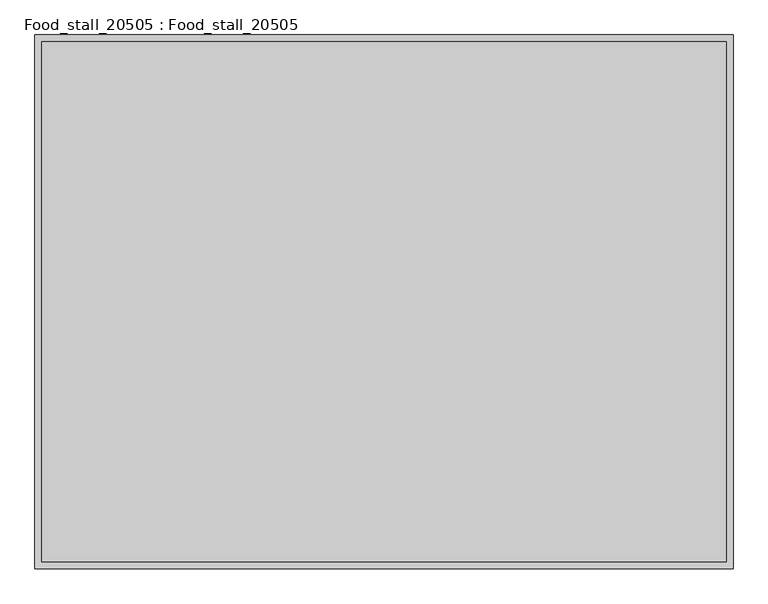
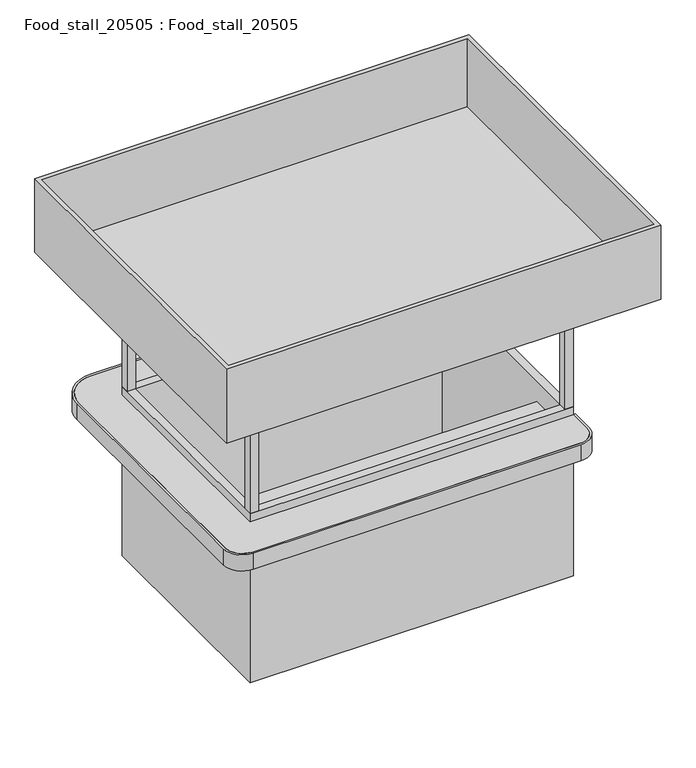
"""IFC4 building model written with IfcOpenShell, lengths in millimetres: proxy geometry, Food_stall_20505 : Food_stall_20505."""

import ifcopenshell
import ifcopenshell.guid

model = None  # the IFC model being written
_history = None  # IfcOwnerHistory: only IFC2X3 demands one
_inside = {}  # id of a spatial element -> (the spatial element, [elements in it])
_under = {}  # id of a project, library or spatial element -> (it, [spatial elements below it])
_declared = {}  # id of a project -> (the project, [libraries it declares])
_typed = {}  # id of a type object -> (the type object, [elements of that type])
_made_of = {}  # id of a material, layer set ... -> (it, [elements and type objects made of it])


def new_model(schema):
    """Start an empty IFC model of exactly this schema.

    Asked for "IFC4X3", IfcOpenShell would pick the latest addendum, in which some entities
    have other attributes; the version numbers below select the first issue.
    IFC2X3 requires an IfcOwnerHistory on every rooted entity: one is made here for all.
    """
    global model, _history
    if schema == "IFC4X3":
        model = ifcopenshell.file(schema_version=(4, 3, 0, 0))
    else:
        model = ifcopenshell.file(schema=schema)
    _inside.clear()
    _under.clear()
    _declared.clear()
    _typed.clear()
    _made_of.clear()
    _history = None
    if model.schema == "IFC2X3":
        org = make("IfcOrganization", Name="unknown")
        user = make(
            "IfcPersonAndOrganization",
            ThePerson=make("IfcPerson", FamilyName="unknown"),
            TheOrganization=org,
        )
        app = make(
            "IfcApplication",
            ApplicationDeveloper=org,
            Version="unknown",
            ApplicationFullName="unknown",
            ApplicationIdentifier="unknown",
        )
        _history = make(
            "IfcOwnerHistory",
            OwningUser=user,
            OwningApplication=app,
            ChangeAction="ADDED",
            CreationDate=0,
        )
    return model


def make(cls, **values):
    """One entity of the class cls with the attributes given. An attribute that is None is left unset."""
    return model.create_entity(
        cls, **{name: value for name, value in values.items() if value is not None}
    )


def rooted(cls, **values):
    """An entity with a GlobalId (a new one), such as an element, a storey or a relation."""
    return make(cls, GlobalId=ifcopenshell.guid.new(), OwnerHistory=_history, **values)


def si_unit(unit_type, name, prefix=None):
    """IfcSIUnit, for example si_unit("LENGTHUNIT", "METRE", prefix="MILLI")."""
    return make("IfcSIUnit", UnitType=unit_type, Prefix=prefix, Name=name)


def assignment(units):
    """IfcUnitAssignment: the units of a project."""
    return None if units is None else make("IfcUnitAssignment", Units=units)


def point(xyz):
    """IfcCartesianPoint."""
    return None if xyz is None else make("IfcCartesianPoint", Coordinates=xyz)


def direction(xyz):
    """IfcDirection."""
    return None if xyz is None else make("IfcDirection", DirectionRatios=xyz)


def frame(location, z_axis=None, x_axis=None):
    """IfcAxis2Placement3D, a coordinate frame: its origin and axes. An axis left out is left unset."""
    return make(
        "IfcAxis2Placement3D",
        Location=point(location),
        Axis=direction(z_axis),
        RefDirection=direction(x_axis),
    )


def frame_2d(location, x_axis=None):
    """IfcAxis2Placement2D, a coordinate frame in the plane: its origin and x axis."""
    return make(
        "IfcAxis2Placement2D", Location=point(location), RefDirection=direction(x_axis)
    )


def origin():
    """The frame at (0, 0, 0) with its axes left unset."""
    return frame((0.0, 0.0, 0.0))


def origin_with_axes():
    """The frame at (0, 0, 0) with the z axis (0, 0, 1) and the x axis (1, 0, 0) written out."""
    return frame((0.0, 0.0, 0.0), z_axis=(0.0, 0.0, 1.0), x_axis=(1.0, 0.0, 0.0))


def place(relative_to, where):
    """IfcLocalPlacement: puts the frame where relative to a parent placement (None: the world)."""
    return make(
        "IfcLocalPlacement", PlacementRelTo=relative_to, RelativePlacement=where
    )


def context(
    kind, dimensions, precision=None, world=None, true_north=None, identifier=None
):
    """IfcGeometricRepresentationContext, for example the 3D "Model" context."""
    return make(
        "IfcGeometricRepresentationContext",
        ContextIdentifier=identifier,
        ContextType=kind,
        CoordinateSpaceDimension=dimensions,
        Precision=precision,
        WorldCoordinateSystem=world,
        TrueNorth=true_north,
    )


def project(units=None, contexts=None):
    """IfcProject with its units and contexts."""
    return rooted(
        "IfcProject",
        Name="project",
        RepresentationContexts=contexts,
        UnitsInContext=assignment(units),
    )


def spatial(cls, under=None, at=None, **own):
    """A site, building, storey or space (cls), placed at a placement, below another one or the project."""
    s = rooted(cls, ObjectPlacement=at, **own)
    if under is not None:
        _under.setdefault(under.id(), (under, []))[1].append(s)
    return s


def polyline(points):
    """IfcPolyline through the points."""
    return make("IfcPolyline", Points=[point(p) for p in points])


def circle_curve(where, radius):
    """IfcCircle in the frame where."""
    return make("IfcCircle", Position=where, Radius=radius)


def trimmed(basis, trim1, trim2, sense, master):
    """IfcTrimmedCurve: the piece of a basis curve between two trims."""
    return make(
        "IfcTrimmedCurve",
        BasisCurve=basis,
        Trim1=trim1,
        Trim2=trim2,
        SenseAgreement=sense,
        MasterRepresentation=master,
    )


def segment(curve, same_sense, transition):
    """IfcCompositeCurveSegment."""
    return make(
        "IfcCompositeCurveSegment",
        Transition=transition,
        SameSense=same_sense,
        ParentCurve=curve,
    )


def composite_curve(segments, self_intersect=None):
    """IfcCompositeCurve: segments joined end to end."""
    return make("IfcCompositeCurve", Segments=segments, SelfIntersect=self_intersect)


def outline(outer, holes=None, kind="AREA"):
    """IfcArbitraryClosedProfileDef: a profile drawn as a closed curve; with holes, ...WithVoids."""
    if holes is None:
        return make("IfcArbitraryClosedProfileDef", ProfileType=kind, OuterCurve=outer)
    return make(
        "IfcArbitraryProfileDefWithVoids",
        ProfileType=kind,
        OuterCurve=outer,
        InnerCurves=holes,
    )


def extrude(swept, where, along, depth):
    """IfcExtrudedAreaSolid: the profile swept, set in the frame where, extruded along a direction by depth."""
    return make(
        "IfcExtrudedAreaSolid",
        SweptArea=swept,
        Position=where,
        ExtrudedDirection=direction(along),
        Depth=depth,
    )


def shape(context_of_items, identifier, shape_type, items):
    """IfcShapeRepresentation: the items that make up one representation, for example the "Body"."""
    return make(
        "IfcShapeRepresentation",
        ContextOfItems=context_of_items,
        RepresentationIdentifier=identifier,
        RepresentationType=shape_type,
        Items=items,
    )


def source(mapping_origin, context_of_items, identifier, shape_type, items):
    """IfcRepresentationMap: a shape defined once, which mapped items show again and again."""
    return make(
        "IfcRepresentationMap",
        MappingOrigin=mapping_origin,
        MappedRepresentation=shape(context_of_items, identifier, shape_type, items),
    )


def transform(
    local_origin,
    x_axis=None,
    y_axis=None,
    z_axis=None,
    scale=None,
    scale2=None,
    scale3=None,
    uniform=True,
):
    """IfcCartesianTransformationOperator3D, or its non-uniform kind. x_axis, y_axis, z_axis: its Axis1, 2, 3."""
    if uniform:
        return make(
            "IfcCartesianTransformationOperator3D",
            Axis1=direction(x_axis),
            Axis2=direction(y_axis),
            LocalOrigin=point(local_origin),
            Scale=scale,
            Axis3=direction(z_axis),
        )
    return make(
        "IfcCartesianTransformationOperator3DnonUniform",
        Axis1=direction(x_axis),
        Axis2=direction(y_axis),
        LocalOrigin=point(local_origin),
        Scale=scale,
        Axis3=direction(z_axis),
        Scale2=scale2,
        Scale3=scale3,
    )


def mapped(mapping_source, mapping_target):
    """IfcMappedItem: shows the shape of a source again, moved by a transform."""
    return make(
        "IfcMappedItem", MappingSource=mapping_source, MappingTarget=mapping_target
    )


def made_of(thing, what):
    """Note that an element or type object is made of a material, layer set ...; save() writes the relation."""
    if what is not None:
        _made_of.setdefault(what.id(), (what, []))[1].append(thing)
    return thing


def element(
    cls,
    number,
    at=None,
    inside=None,
    cuts=None,
    type_object=None,
    material=None,
    context=None,
    identifier="Body",
    shape_type=None,
    held_by="IfcProductDefinitionShape",
    body=None,
    shapes=None,
    **own,
):
    """One element of the class cls, such as IfcWall. Its Tag is "e" and its number.

    at: its placement. inside: the storey or other place that contains it. cuts: it is an
    opening in that element (IfcRelVoidsElement). A single representation is given by context,
    identifier, shape_type and body (its items); several are given by shapes. held_by: the class
    of the entity that holds the representations. save() writes the other relations.
    """
    e = rooted(cls, Tag="e%d" % number, ObjectPlacement=at, **own)
    if body is not None:
        shapes = [shape(context, identifier, shape_type, body)]
    if shapes is not None:
        e.Representation = make(held_by, Representations=shapes)
    if inside is not None:
        _inside.setdefault(inside.id(), (inside, []))[1].append(e)
    if cuts is not None:
        rooted(
            "IfcRelVoidsElement", RelatingBuildingElement=cuts, RelatedOpeningElement=e
        )
    if type_object is not None:
        _typed.setdefault(type_object.id(), (type_object, []))[1].append(e)
    return made_of(e, material)


def aggregate(whole, parts):
    """IfcRelAggregates: a whole, such as a stair, and the parts it consists of."""
    return rooted("IfcRelAggregates", RelatingObject=whole, RelatedObjects=parts)


def save(model, path):
    """Write the relations noted so far, then the file.

    IfcRelAggregates (storeys below a building ...), IfcRelContainedInSpatialStructure (elements
    in a storey), IfcRelDefinesByType, IfcRelAssociatesMaterial and IfcRelDeclares: one each for
    every whole, place, type object, material and project.
    """
    for whole, parts in _under.values():
        aggregate(whole, parts)
    for where, things in _inside.values():
        rooted(
            "IfcRelContainedInSpatialStructure",
            RelatedElements=things,
            RelatingStructure=where,
        )
    for kind, things in _typed.values():
        rooted("IfcRelDefinesByType", RelatedObjects=things, RelatingType=kind)
    for what, things in _made_of.values():
        rooted("IfcRelAssociatesMaterial", RelatedObjects=things, RelatingMaterial=what)
    for by, libraries in _declared.values():
        rooted("IfcRelDeclares", RelatingContext=by, RelatedDefinitions=libraries)
    model.write(path)


def food_stall_20505_food_stall_20505_67107a66(model_context):
    return source(origin(), model_context, "Body", "SweptSolid", [
        extrude(outline(polyline([(965.2, 660.4), (965.2, -660.4), (-965.2, -660.4), (-965.2, 660.4), (965.2, 660.4)]), holes=[polyline([(914.4, 609.6), (-914.4, 609.6), (-914.4, -609.6), (914.4, -609.6), (914.4, 609.6)])]), origin_with_axes(), (0.0, 0.0, 1.0), 1066.8),
        extrude(outline(polyline([(-914.4, 660.4), (-914.4, 609.6), (-965.2, 609.6), (-965.2, 660.4), (-914.4, 660.4)])), frame((0.0, 0.0, 914.4), z_axis=(0.0, 0.0, 1.0), x_axis=(1.0, 0.0, 0.0)), (0.0, 0.0, 1.0), 939.8),
        extrude(outline(polyline([(914.4, 660.4), (965.2, 660.4), (965.2, 609.6), (914.4, 609.6), (914.4, 660.4)])), frame((0.0, 0.0, 914.4), z_axis=(0.0, 0.0, 1.0), x_axis=(1.0, 0.0, 0.0)), (0.0, 0.0, 1.0), 939.8),
        extrude(outline(polyline([(-914.4, -660.4), (-965.2, -660.4), (-965.2, -609.6), (-914.4, -609.6), (-914.4, -660.4)])), frame((0.0, 0.0, 914.4), z_axis=(0.0, 0.0, 1.0), x_axis=(1.0, 0.0, 0.0)), (0.0, 0.0, 1.0), 939.8),
        extrude(outline(polyline([(914.4, -660.4), (914.4, -609.6), (965.2, -609.6), (965.2, -660.4), (914.4, -660.4)])), frame((0.0, 0.0, 914.4), z_axis=(0.0, 0.0, 1.0), x_axis=(1.0, 0.0, 0.0)), (0.0, 0.0, 1.0), 939.8),
        extrude(outline(polyline([(1295.4, 990.6), (1295.4, -990.6), (-1295.4, -990.6), (-1295.4, 990.6), (1295.4, 990.6)]), holes=[polyline([(1270.0, 965.2), (-1270.0, 965.2), (-1270.0, -965.2), (1270.0, -965.2), (1270.0, 965.2)])]), frame((0.0, 0.0, 1828.8), z_axis=(0.0, 0.0, 1.0), x_axis=(1.0, 0.0, 0.0)), (0.0, 0.0, 1.0), 464.498225),
        extrude(outline(polyline([(1270.0, 965.2), (1270.0, -965.2), (-1270.0, -965.2), (-1270.0, 965.2), (1270.0, 965.2)])), frame((0.0, 0.0, 1828.8), z_axis=(0.0, 0.0, 1.0), x_axis=(1.0, 0.0, 0.0)), (0.0, 0.0, 1.0), 36.4158971),
        extrude(outline(composite_curve([segment(polyline([(965.2, -660.4), (965.2, -799.6178899)]), True, "CONTINUOUS"), segment(trimmed(circle_curve(frame_2d((863.6, -799.6178899)), 101.6), [point((965.2, -799.6178899))], [point((863.6, -901.2178899))], False, "CARTESIAN"), True, "CONTINUOUS"), segment(polyline([(863.6, -901.2178899), (-1092.2, -901.2178899)]), True, "CONTINUOUS"), segment(trimmed(circle_curve(frame_2d((-1092.2, -799.6178899)), 101.6), [point((-1092.2, -901.2178899))], [point((-1193.8, -799.6178899))], False, "CARTESIAN"), True, "CONTINUOUS"), segment(polyline([(-1193.8, -799.6178899), (-1193.8, 711.2)]), True, "CONTINUOUS"), segment(trimmed(circle_curve(frame_2d((-1016.0, 711.2)), 177.8), [point((-1193.8, 711.2))], [point((-1016.0, 889.0))], False, "CARTESIAN"), True, "CONTINUOUS"), segment(polyline([(-1016.0, 889.0), (863.6, 889.0)]), True, "CONTINUOUS"), segment(trimmed(circle_curve(frame_2d((863.6, 787.4)), 101.6), [point((863.6, 889.0))], [point((965.2, 787.4))], False, "CARTESIAN"), True, "CONTINUOUS"), segment(polyline([(965.2, 787.4), (965.2, 660.4), (-965.2, 660.4), (-965.2, -660.4), (965.2, -660.4)]), True, "CONTINUOUS")], self_intersect=False)), frame((0.0, 0.0, 990.6), z_axis=(0.0, 0.0, 1.0), x_axis=(1.0, 0.0, 0.0)), (0.0, 0.0, 1.0), 25.4),
        extrude(outline(polyline([(939.8, -368.7821101), (939.8, -609.6), (-962.025, -609.6), (-962.025, -368.7821101), (939.8, -368.7821101)])), frame((0.0, 0.0, 914.4), z_axis=(0.0, 0.0, 1.0), x_axis=(1.0, 0.0, 0.0)), (0.0, 0.0, 1.0), 25.4),
        extrude(outline(composite_curve([segment(polyline([(965.2, -660.4), (977.9, -660.4), (977.9, -799.6178899)]), True, "CONTINUOUS"), segment(trimmed(circle_curve(frame_2d((863.6, -799.6178899)), 114.3), [point((977.9, -799.6178899))], [point((863.6, -913.9178899))], False, "CARTESIAN"), True, "CONTINUOUS"), segment(polyline([(863.6, -913.9178899), (-1092.2, -913.9178899)]), True, "CONTINUOUS"), segment(trimmed(circle_curve(frame_2d((-1092.2, -799.6178899)), 114.3), [point((-1092.2, -913.9178899))], [point((-1206.5, -799.6178899))], False, "CARTESIAN"), True, "CONTINUOUS"), segment(polyline([(-1206.5, -799.6178899), (-1206.5, 711.2)]), True, "CONTINUOUS"), segment(trimmed(circle_curve(frame_2d((-1016.0, 711.2)), 190.5), [point((-1206.5, 711.2))], [point((-1016.0, 901.7))], False, "CARTESIAN"), True, "CONTINUOUS"), segment(polyline([(-1016.0, 901.7), (863.6, 901.7)]), True, "CONTINUOUS"), segment(trimmed(circle_curve(frame_2d((863.6, 787.4)), 114.3), [point((863.6, 901.7))], [point((977.9, 787.4))], False, "CARTESIAN"), True, "CONTINUOUS"), segment(polyline([(977.9, 787.4), (977.9, 660.4), (965.2, 660.4), (965.2, 787.4)]), True, "CONTINUOUS"), segment(trimmed(circle_curve(frame_2d((863.6, 787.4)), 101.6), [point((965.2, 787.4))], [point((863.6, 889.0))], True, "CARTESIAN"), True, "CONTINUOUS"), segment(polyline([(863.6, 889.0), (-1016.0, 889.0)]), True, "CONTINUOUS"), segment(trimmed(circle_curve(frame_2d((-1016.0, 711.2)), 177.8), [point((-1016.0, 889.0))], [point((-1193.8, 711.2))], True, "CARTESIAN"), True, "CONTINUOUS"), segment(polyline([(-1193.8, 711.2), (-1193.8, -799.6178899)]), True, "CONTINUOUS"), segment(trimmed(circle_curve(frame_2d((-1092.2, -799.6178899)), 101.6), [point((-1193.8, -799.6178899))], [point((-1092.2, -901.2178899))], True, "CARTESIAN"), True, "CONTINUOUS"), segment(polyline([(-1092.2, -901.2178899), (863.6, -901.2178899)]), True, "CONTINUOUS"), segment(trimmed(circle_curve(frame_2d((863.6, -799.6178899)), 101.6), [point((863.6, -901.2178899))], [point((965.2, -799.6178899))], True, "CARTESIAN"), True, "CONTINUOUS"), segment(polyline([(965.2, -799.6178899), (965.2, -660.4)]), True, "CONTINUOUS")], self_intersect=False)), frame((0.0, 0.0, 914.4), z_axis=(0.0, 0.0, 1.0), x_axis=(1.0, 0.0, 0.0)), (0.0, 0.0, 1.0), 101.6),
    ])


if __name__ == "__main__":
    model = new_model("IFC4")
    model_context = context("Model", 3, world=origin())
    ifc_project = project(units=[si_unit("LENGTHUNIT", "METRE", prefix="MILLI")], contexts=[model_context])
    site = spatial("IfcSite", under=ifc_project)
    building = spatial("IfcBuilding", under=site)
    placement = place(None, origin())
    food_stall_20505_food_stall_20505_shape = food_stall_20505_food_stall_20505_67107a66(model_context)
    element("IfcBuildingElementProxy", 1, Name="Food_stall_20505 : Food_stall_20505", ObjectType="Food_stall_20505 : Food_stall_20505", at=placement, inside=building, context=model_context, shape_type="MappedRepresentation", body=[
        mapped(food_stall_20505_food_stall_20505_shape, transform((0.0, 0.0, 0.0), x_axis=(1.0, 0.0, 0.0), y_axis=(0.0, 1.0, 0.0), z_axis=(0.0, 0.0, 1.0))),
    ])
    save(model, "model.ifc")
